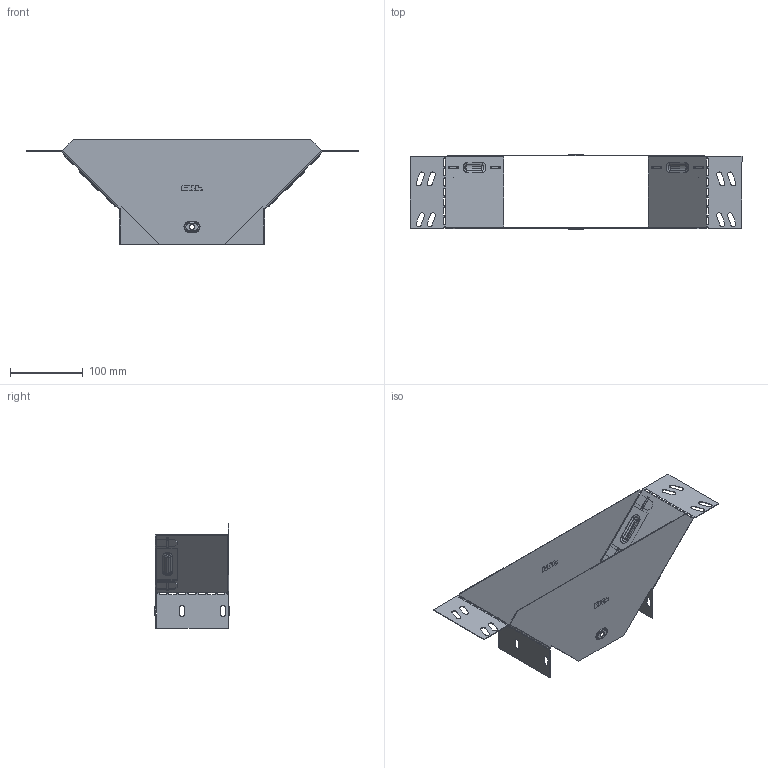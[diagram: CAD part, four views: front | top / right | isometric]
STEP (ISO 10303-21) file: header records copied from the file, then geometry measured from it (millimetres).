
FILE_DESCRIPTION (( 'STEP AP214' ), '1' );
FILE_NAME ('tn10020008_捘.STEP', '2019-06-10T08:02:43', ( '砐錪賧瘔蠈錪 Windows' ), ( '' ), 'SwSTEP 2.0', 'SolidWorks 2018', '' );
FILE_SCHEMA (( 'AUTOMOTIVE_DESIGN' ));
Length unit declared in the file: millimetre
Products named in the file (1): tn10020008_捘
Bounding box: 456.02 x 103.8 x 144 mm (x, y, z)
Volume: 88472.3 mm3; surface area: 224750.5 mm2
Topology: 2 solids, 2 shells, 698 faces, 1994 edges, 1260 vertices
Faces by surface type: plane 420, cylinder 212, torus 48, bspline 18
Entity records: 23565 total; most frequent: CARTESIAN_POINT 4911, ORIENTED_EDGE 3988, DIRECTION 3816, EDGE_CURVE 1994, LINE 1462, VECTOR 1462, VERTEX_POINT 1260, AXIS2_PLACEMENT_3D 1177
